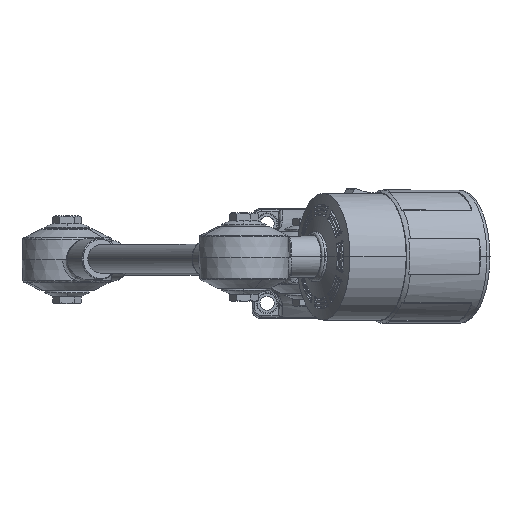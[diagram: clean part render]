
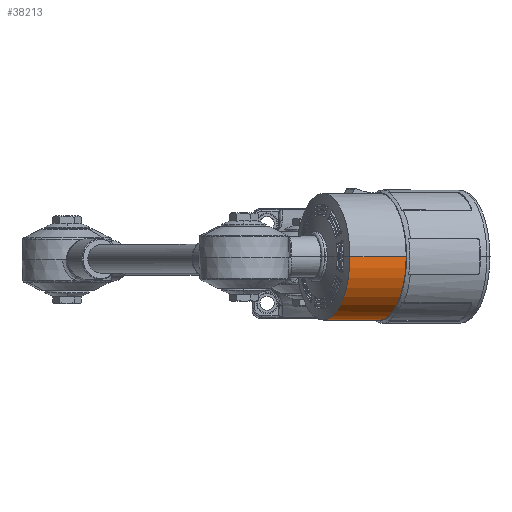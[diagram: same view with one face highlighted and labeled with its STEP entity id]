
A CAD part, top view. The second image highlights one B-rep face of the part: STEP entity #38213.
In plain terms, the highlighted cylindrical face has radius 35.75 mm (diameter 71.5 mm), a partial arc.
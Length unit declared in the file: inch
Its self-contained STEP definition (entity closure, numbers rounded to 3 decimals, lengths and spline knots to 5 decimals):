
#7712=CARTESIAN_POINT('',(1.58063,1.33868,16.98154));
#7713=DIRECTION('',(0.906,0.,-0.423));
#7714=DIRECTION('',(0.423,0.,0.906));
#7715=AXIS2_PLACEMENT_3D('',#7712,#7713,#7714);
#8075=DIRECTION('',(-0.906,0.,0.423));
#8076=VECTOR('',#8075,1.37795);
#8077=CARTESIAN_POINT('',(2.23465,1.33868,15.12358));
#8078=LINE('',#8077,#8076);
#8079=DIRECTION('',(0.906,0.,-0.423));
#8080=VECTOR('',#8079,1.37795);
#8081=CARTESIAN_POINT('',(2.17546,1.33868,18.25715));
#8082=LINE('',#8081,#8080);
#8098=CARTESIAN_POINT('',(2.82948,1.33868,16.39919));
#8099=DIRECTION('',(-0.906,0.,0.423));
#8100=DIRECTION('',(-0.423,0.,-0.906));
#8101=AXIS2_PLACEMENT_3D('',#8098,#8099,#8100);
#22855=CARTESIAN_POINT('',(0.9858,1.33868,
15.70593));
#22856=VERTEX_POINT('',#22855);
#22857=CARTESIAN_POINT('',(2.17546,1.33868,18.25715));
#22858=VERTEX_POINT('',#22857);
#23230=CARTESIAN_POINT('',(2.23465,1.33868,15.12358));
#23231=CARTESIAN_POINT('',(3.42431,1.33868,17.6748));
#23232=VERTEX_POINT('',#23230);
#23233=VERTEX_POINT('',#23231);
#38199=CARTESIAN_POINT('',(2.85446,1.33868,16.38755));
#38200=DIRECTION('',(-0.906,0.,0.423));
#38201=DIRECTION('',(-0.423,0.,-0.906));
#38202=AXIS2_PLACEMENT_3D('',#38199,#38200,#38201);
#38203=CYLINDRICAL_SURFACE('',#38202,1.40748);
#38205=ORIENTED_EDGE('',*,*,#38204,.F.);
#38207=ORIENTED_EDGE('',*,*,#38206,.T.);
#38208=ORIENTED_EDGE('',*,*,#38016,.F.);
#38210=ORIENTED_EDGE('',*,*,#38209,.T.);
#38211=EDGE_LOOP('',(#38205,#38207,#38208,#38210));
#38212=FACE_OUTER_BOUND('',#38211,.F.);
#38213=ADVANCED_FACE('',(#38212),#38203,.T.);
#7716=CIRCLE('',#7715,1.40748);
#8102=CIRCLE('',#8101,1.40748);
#38016=EDGE_CURVE('',#22858,#22856,#7716,.T.);
#38204=EDGE_CURVE('',#23232,#23233,#8102,.T.);
#38206=EDGE_CURVE('',#23232,#22856,#8078,.T.);
#38209=EDGE_CURVE('',#22858,#23233,#8082,.T.);
